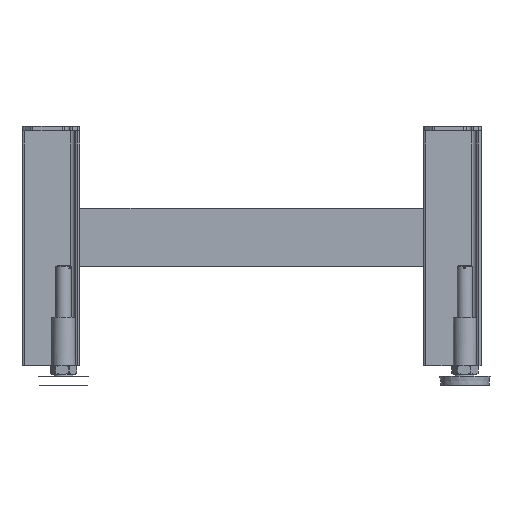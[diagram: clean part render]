
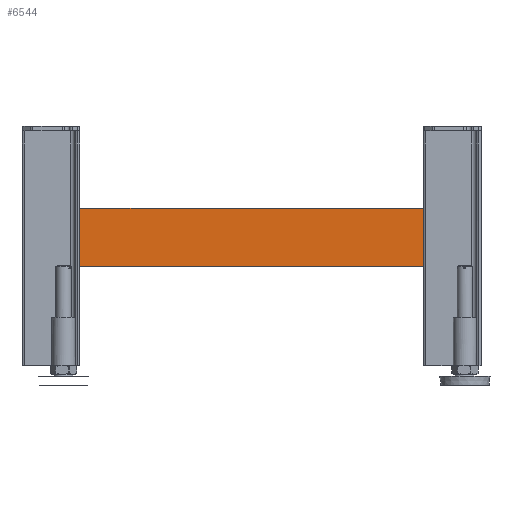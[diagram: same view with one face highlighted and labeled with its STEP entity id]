
A CAD part, left-side view. The second image highlights one B-rep face of the part: STEP entity #6544.
In plain terms, the highlighted planar face has unit normal (-1, 0, 0).
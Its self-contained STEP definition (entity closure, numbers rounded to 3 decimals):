
#530=PLANE('',#7046);
#776=FACE_OUTER_BOUND('',#1156,.T.);
#1156=EDGE_LOOP('',(#4889,#4890,#4891,#4892));
#1618=LINE('',#9927,#2138);
#1637=LINE('',#9977,#2157);
#1639=LINE('',#9980,#2159);
#1640=LINE('',#9981,#2160);
#2138=VECTOR('',#8068,10.);
#2157=VECTOR('',#8113,10.);
#2159=VECTOR('',#8117,10.);
#2160=VECTOR('',#8118,10.);
#2977=VERTEX_POINT('',#9924);
#2978=VERTEX_POINT('',#9926);
#2995=VERTEX_POINT('',#9974);
#2996=VERTEX_POINT('',#9976);
#3674=EDGE_CURVE('',#2977,#2978,#1618,.T.);
#3699=EDGE_CURVE('',#2996,#2995,#1637,.T.);
#3701=EDGE_CURVE('',#2978,#2995,#1639,.T.);
#3702=EDGE_CURVE('',#2977,#2996,#1640,.T.);
#4889=ORIENTED_EDGE('',*,*,#3701,.F.);
#4890=ORIENTED_EDGE('',*,*,#3674,.F.);
#4891=ORIENTED_EDGE('',*,*,#3702,.T.);
#4892=ORIENTED_EDGE('',*,*,#3699,.T.);
#6544=ADVANCED_FACE('',(#776),#530,.T.);
#7046=AXIS2_PLACEMENT_3D('',#9979,#8115,#8116);
#8068=DIRECTION('',(0.,1.,0.));
#8113=DIRECTION('',(0.,1.,0.));
#8115=DIRECTION('center_axis',(-1.,0.,0.));
#8116=DIRECTION('ref_axis',(0.,0.,1.));
#8117=DIRECTION('',(0.,0.,1.));
#8118=DIRECTION('',(0.,0.,1.));
#9924=CARTESIAN_POINT('',(107.,86.,-127.729));
#9926=CARTESIAN_POINT('',(107.,441.743,-127.729));
#9927=CARTESIAN_POINT('',(107.,26.,-127.729));
#9974=CARTESIAN_POINT('',(107.,441.743,-67.729));
#9976=CARTESIAN_POINT('',(107.,86.,-67.729));
#9977=CARTESIAN_POINT('',(107.,26.,-67.729));
#9979=CARTESIAN_POINT('Origin',(107.,26.,-127.729));
#9980=CARTESIAN_POINT('',(107.,441.743,-230.729));
#9981=CARTESIAN_POINT('',(107.,86.,-230.729));
